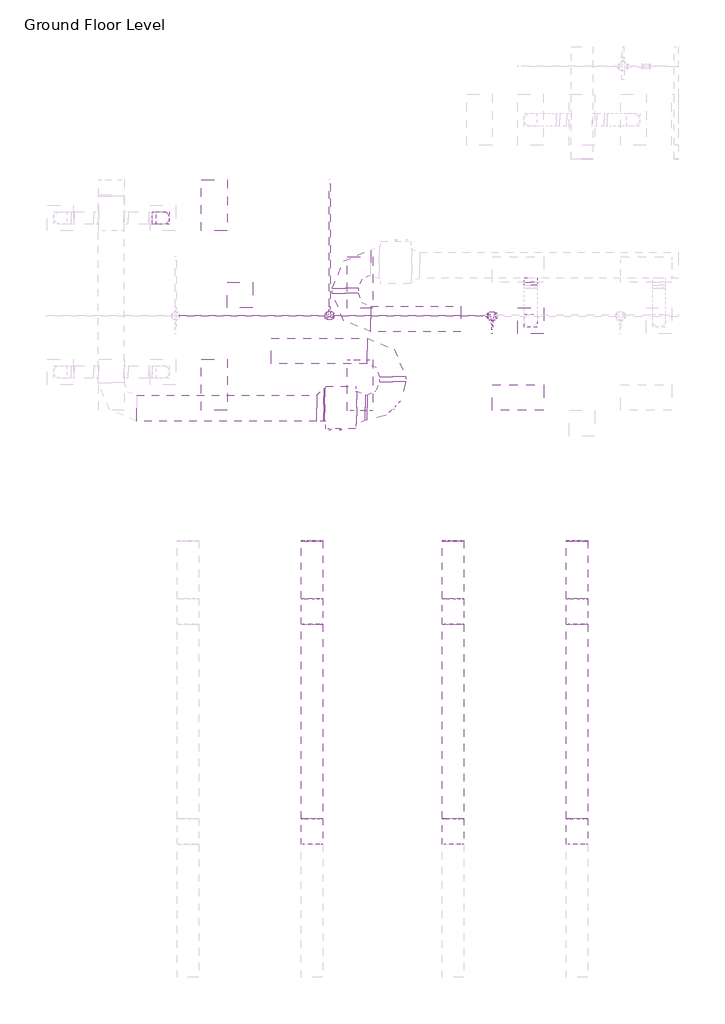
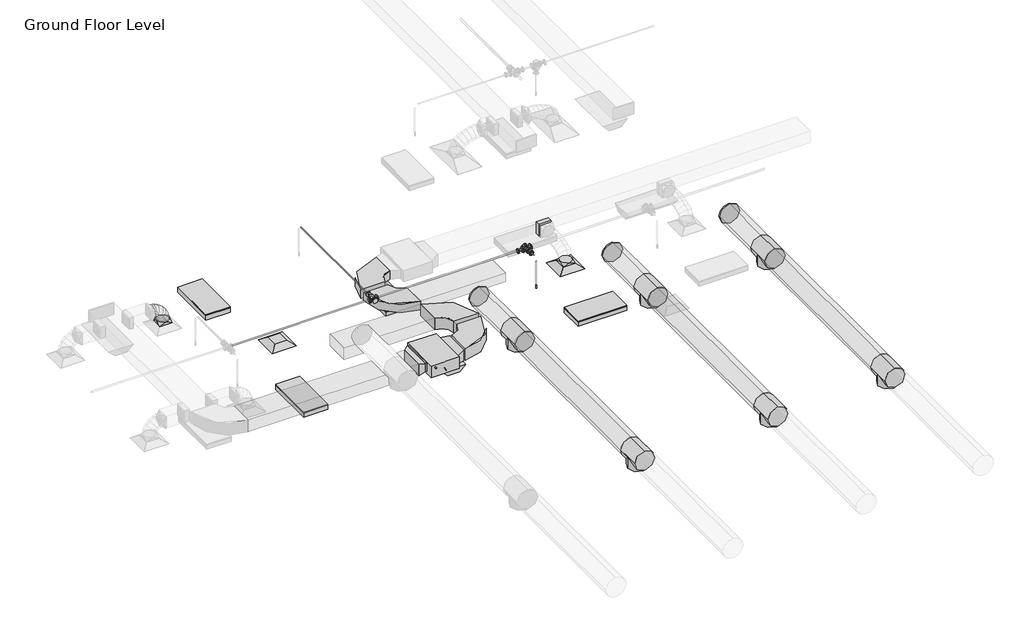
# One storey, part 11 of 68: 18 duct fittings, 15 duct segments, 5 light fixtures, 5 pipe fittings, 5 pipe segments, 2 air terminals, 1 fire suppression terminal, 1 proxy.
"""IFC4 building model written with IfcOpenShell, lengths in millimetres."""

from ifc_helpers import new_model, si_unit, point, frame, frame_2d, origin, place, context, project, spatial, polyline, circle_curve, ellipse_curve, trimmed, segment, composite_curve, outline, extrude, transform, mapped, element, save
from ifc_brep_helpers import plane_surface, cylinder_surface, advanced_brep
from components import m_return_diffuser_600_x_600_face_300_x_300_connection_ff221211, fcu_daikin_iu_7e1df382, m_rectangular_elbow_radius_1_w_907e8aaa, m_rectangular_elbow_radius_1_w_c6ed0251, m_rectangular_takeoff_standard_2be5eba1, m_rectangular_transition_angle_45_degree_cf32fe34, m_rectangular_transition_angle_45_degree_023bf680, m_rectangular_to_round_transition_angle_45_degree_641efff0, m_round_endcap_standard_1c45c55c, m_round_tee_standard_ed589d36, m_sprinkler_dry_pendent_hosted_15_mm_dry_pendent_9bda8e11, m_emergency_recessed_lighting_fixture_600x1200_277_5b10b25d, m_troffer_light_parabolic_rectangular1_0600x1200mm_4_lamp_86473d4a, m_reducer_flanged_cs_class_150_standard_b6b67c23, m_reducer_flanged_cs_class_150_standard_ccf252ad, m_reducer_flanged_cs_class_150_standard_678fb8eb, m_tee_round_base_flanged_cs_class_150_standard_7e5987a1, m_tee_round_base_flanged_cs_class_150_standard_9c9133d0

model = new_model("IFC4")

# Units and contexts
model_context = context("Model", 3, world=origin())
ifc_project = project(units=[si_unit("LENGTHUNIT", "METRE", prefix="MILLI")], contexts=[model_context])

# Site, building, storey
site = spatial("IfcSite", under=ifc_project)
building = spatial("IfcBuilding", under=site)
storey = spatial("IfcBuildingStorey", under=building, Name="Ground Floor Level", Elevation=900.0)

# Air terminals
placement = place(None, origin())
m_return_diffuser_600_x_600_face_300_x_300_connection_shape = m_return_diffuser_600_x_600_face_300_x_300_connection_ff221211(model_context)
element("IfcAirTerminal", 1, ObjectType="M_Return Diffuser : 600 x 600 Face 300 x 300 Connection", at=placement, inside=storey, context=model_context, shape_type="MappedRepresentation", body=[
    mapped(m_return_diffuser_600_x_600_face_300_x_300_connection_shape, transform((-14937.2327605, -2464.7846466, 3650.0), x_axis=(1.0, 0.0, 0.0), y_axis=(0.0, 1.0, 0.0), z_axis=(0.0, 0.0, 1.0))),
])
element("IfcAirTerminal", 2, ObjectType="M_Supply Diffuser : 600 x 600 Face 300 x 300 Connection", at=placement, inside=storey, context=model_context, shape_type="MappedRepresentation", body=[
    mapped(m_return_diffuser_600_x_600_face_300_x_300_connection_shape, transform((-8137.2327605, -3064.7846466, 3650.0), x_axis=(1.0, 0.0, 0.0), y_axis=(0.0, 1.0, 0.0), z_axis=(0.0, 0.0, 1.0))),
])

# Proxy
fcu_daikin_iu_shape = fcu_daikin_iu_7e1df382(model_context)
element("IfcBuildingElementProxy", 3, Name="FCU-DAIKIN IU : 5.7kW, 230V/50Hz/1Ph", ObjectType="FCU-DAIKIN IU : 5.7kW, 230V/50Hz/1Ph", at=placement, inside=storey, context=model_context, shape_type="MappedRepresentation", body=[
    mapped(fcu_daikin_iu_shape, transform((-12577.2327605, -5093.8471466, 3934.0895647), x_axis=(0.0, -1.0, 0.0), y_axis=(1.0, 0.0, 0.0), z_axis=(0.0, 0.0, 1.0))),
])

# Duct fittings
m_rectangular_elbow_radius_1_w_shape = m_rectangular_elbow_radius_1_w_907e8aaa(model_context)
element("IfcDuctFitting", 4, ObjectType="M_Rectangular Elbow - Radius : 1 W", at=placement, inside=storey, context=model_context, shape_type="MappedRepresentation", body=[
    mapped(m_rectangular_elbow_radius_1_w_shape, transform((-12472.6327605, -1704.7846466, 4075.2873731), x_axis=(-1.0, 0.0, 0.0), y_axis=(0.0, -1.0, 0.0), z_axis=(0.0, 0.0, 1.0))),
])
element("IfcDuctFitting", 5, ObjectType="M_Rectangular Elbow - Radius : 1 W", at=placement, inside=storey, context=model_context, shape_type="MappedRepresentation", body=[
    mapped(m_rectangular_elbow_radius_1_w_shape, transform((-12472.6327605, -3024.7846466, 4075.2873731), x_axis=(0.0, -1.0, 0.0), y_axis=(1.0, 0.0, 0.0), z_axis=(0.0, 0.0, 1.0))),
])
m_rectangular_elbow_radius_1_w_2_shape = m_rectangular_elbow_radius_1_w_c6ed0251(model_context)
element("IfcDuctFitting", 6, ObjectType="M_Rectangular Elbow - Radius : 1 W", at=placement, inside=storey, context=model_context, shape_type="MappedRepresentation", body=[
    mapped(m_rectangular_elbow_radius_1_w_2_shape, transform((-11361.8327606, -5093.8471466, 4075.3020647), x_axis=(0.9999999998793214, 0.0, 1.5535678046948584e-05), y_axis=(0.0, 1.0000000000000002, 0.0), z_axis=(-1.5535678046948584e-05, 0.0, 0.9999999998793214))),
])
element("IfcDuctFitting", 7, ObjectType="M_Rectangular Elbow - Radius : 1 W", at=placement, inside=storey, context=model_context, shape_type="MappedRepresentation", body=[
    mapped(m_rectangular_elbow_radius_1_w_2_shape, transform((-11361.8327606, -3773.8471466, 4075.3020647), x_axis=(0.0, 1.0, 0.0), y_axis=(-1.0, 0.0, 0.0), z_axis=(0.0, 0.0, 1.0))),
])
m_rectangular_takeoff_standard_shape = m_rectangular_takeoff_standard_2be5eba1(model_context)
element("IfcDuctFitting", 8, ObjectType="M_Rectangular Takeoff : Standard", at=placement, inside=storey, context=model_context, shape_type="MappedRepresentation", body=[
    mapped(m_rectangular_takeoff_standard_shape, transform((-8137.2327605, -2068.2846466, 4099.9964558), x_axis=(0.0, -1.0, 0.0), y_axis=(-1.0, 0.0, 0.0), z_axis=(0.0, 0.0, -1.0))),
])
m_rectangular_transition_angle_45_degree_shape = m_rectangular_transition_angle_45_degree_cf32fe34(model_context)
element("IfcDuctFitting", 9, ObjectType="M_Rectangular Transition - Angle : 45 Degree", at=placement, inside=storey, context=model_context, shape_type="MappedRepresentation", body=[
    mapped(m_rectangular_transition_angle_45_degree_shape, transform((-12972.63276, -5030.3471466, 4100.0020647), x_axis=(-0.9999999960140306, 0.0, -8.928571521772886e-05), y_axis=(0.0, -1.0, 0.0), z_axis=(-8.928571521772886e-05, 0.0, 0.9999999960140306))),
])
m_rectangular_transition_angle_45_degree_2_shape = m_rectangular_transition_angle_45_degree_023bf680(model_context)
element("IfcDuctFitting", 10, ObjectType="M_Rectangular Transition - Angle : 45 Degree", at=placement, inside=storey, context=model_context, shape_type="MappedRepresentation", body=[
    mapped(m_rectangular_transition_angle_45_degree_2_shape, transform((-12201.8327605, -5093.8471466, 4075.2895647), x_axis=(1.0, 0.0, 0.0), y_axis=(0.0, 1.0, 0.0), z_axis=(0.0, 0.0, 1.0))),
])
m_rectangular_to_round_transition_angle_45_degree_shape = m_rectangular_to_round_transition_angle_45_degree_641efff0(model_context)
element("IfcDuctFitting", 11, ObjectType="M_Rectangular to Round Transition - Angle : 45 Degree", at=placement, inside=storey, context=model_context, shape_type="MappedRepresentation", body=[
    mapped(m_rectangular_to_round_transition_angle_45_degree_shape, transform((-8137.2327605, -3064.7846466, 3751.6), x_axis=(0.0, 0.0, 1.0), y_axis=(-1.0, 0.0, 0.0), z_axis=(0.0, -1.0, 0.0))),
])
element("IfcDuctFitting", 12, ObjectType="M_Rectangular to Round Transition - Angle : 45 Degree", at=placement, inside=storey, context=model_context, shape_type="MappedRepresentation", body=[
    mapped(m_rectangular_to_round_transition_angle_45_degree_shape, transform((-16737.2327605, -664.7846466, 3751.6), x_axis=(0.0, 0.0, 1.0), y_axis=(-1.0, 0.0, 0.0), z_axis=(0.0, -1.0, 0.0))),
])
m_round_endcap_standard_shape = m_round_endcap_standard_1c45c55c(model_context)
element("IfcDuctFitting", 13, ObjectType="M_Round Endcap : Standard", at=placement, inside=storey, context=model_context, shape_type="MappedRepresentation", body=[
    mapped(m_round_endcap_standard_shape, transform((-13250.3527512, -8221.0125677, 7765.9), x_axis=(0.0, 0.9999999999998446, -5.576948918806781e-07), y_axis=(-1.0000000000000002, 0.0, 0.0), z_axis=(0.0, 5.576948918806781e-07, 0.9999999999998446))),
])
element("IfcDuctFitting", 14, ObjectType="M_Round Endcap : Standard", at=placement, inside=storey, context=model_context, shape_type="MappedRepresentation", body=[
    mapped(m_round_endcap_standard_shape, transform((-9950.3527512, -8221.0125677, 7765.9), x_axis=(0.0, 0.9999999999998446, -5.576948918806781e-07), y_axis=(-1.0000000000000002, 0.0, 0.0), z_axis=(0.0, 5.576948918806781e-07, 0.9999999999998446))),
])
element("IfcDuctFitting", 15, ObjectType="M_Round Endcap : Standard", at=placement, inside=storey, context=model_context, shape_type="MappedRepresentation", body=[
    mapped(m_round_endcap_standard_shape, transform((-7050.3527512, -8221.0125677, 7765.9), x_axis=(0.0, 0.9999999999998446, -5.576948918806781e-07), y_axis=(-1.0000000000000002, 0.0, 0.0), z_axis=(0.0, 5.576948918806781e-07, 0.9999999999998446))),
])
m_round_tee_standard_shape = m_round_tee_standard_ed589d36(model_context)
element("IfcDuctFitting", 16, ObjectType="M_Round Tee : Standard", at=placement, inside=storey, context=model_context, shape_type="MappedRepresentation", body=[
    mapped(m_round_tee_standard_shape, transform((-13250.3527512, -9864.7844235, 7765.9009947), x_axis=(0.0, 0.9999999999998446, -5.576948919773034e-07), y_axis=(0.0, 5.576948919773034e-07, 0.9999999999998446), z_axis=(1.0, 0.0, 0.0))),
])
element("IfcDuctFitting", 17, ObjectType="M_Round Tee : Standard", at=placement, inside=storey, context=model_context, shape_type="MappedRepresentation", body=[
    mapped(m_round_tee_standard_shape, transform((-13250.3527512, -15012.784348, 7765.9038657), x_axis=(0.0, 0.9999999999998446, -5.576948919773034e-07), y_axis=(0.0, 5.576948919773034e-07, 0.9999999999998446), z_axis=(1.0, 0.0, 0.0))),
])
element("IfcDuctFitting", 18, ObjectType="M_Round Tee : Standard", at=placement, inside=storey, context=model_context, shape_type="MappedRepresentation", body=[
    mapped(m_round_tee_standard_shape, transform((-9950.3527512, -9864.7844235, 7765.9009947), x_axis=(0.0, 0.9999999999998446, -5.576948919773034e-07), y_axis=(0.0, 5.576948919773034e-07, 0.9999999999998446), z_axis=(1.0, 0.0, 0.0))),
])
element("IfcDuctFitting", 19, ObjectType="M_Round Tee : Standard", at=placement, inside=storey, context=model_context, shape_type="MappedRepresentation", body=[
    mapped(m_round_tee_standard_shape, transform((-9950.3527512, -15012.784348, 7765.9038657), x_axis=(0.0, 0.9999999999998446, -5.576948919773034e-07), y_axis=(0.0, 5.576948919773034e-07, 0.9999999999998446), z_axis=(1.0, 0.0, 0.0))),
])
element("IfcDuctFitting", 20, ObjectType="M_Round Tee : Standard", at=placement, inside=storey, context=model_context, shape_type="MappedRepresentation", body=[
    mapped(m_round_tee_standard_shape, transform((-7050.3527512, -9864.7844235, 7765.9009947), x_axis=(0.0, 0.9999999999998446, -5.576948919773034e-07), y_axis=(0.0, 5.576948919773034e-07, 0.9999999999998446), z_axis=(1.0, 0.0, 0.0))),
])
element("IfcDuctFitting", 21, ObjectType="M_Round Tee : Standard", at=placement, inside=storey, context=model_context, shape_type="MappedRepresentation", body=[
    mapped(m_round_tee_standard_shape, transform((-7050.3527512, -15012.784348, 7765.9038657), x_axis=(0.0, 0.9999999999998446, -5.576948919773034e-07), y_axis=(0.0, 5.576948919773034e-07, 0.9999999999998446), z_axis=(1.0, 0.0, 0.0))),
])

# Duct segments
element("IfcDuctSegment", 22, ObjectType="Flex - Round", at=placement, inside=storey, context=model_context, shape_type="AdvancedBrep", body=[
    advanced_brep(
    [(-16587.2327605, -664.7846466, 3826.6), (-16737.2327605, -814.7846466, 3826.6), (-16887.2327605, -664.7846466, 3826.6), (-16737.2327605, -514.7846466, 3826.6), (-16587.2327605, -664.7846466, 3876.1927096), (-16737.2327605, -814.7846466, 3854.3867302), (-16887.2327605, -664.7846466, 3832.5807508), (-16737.2327605, -514.7846466, 3854.3867302), (-16611.9605873, -664.7846466, 3959.4447987), (-16751.5699162, -814.7846466, 3902.6561626), (-16891.1792451, -664.7846466, 3845.8675264), (-16751.5699162, -514.7846466, 3902.6561626), (-16666.3134835, -664.7846466, 4062.8525006), (-16790.3375927, -814.7846466, 3976.4126063), (-16914.3617019, -664.7846466, 3889.9727121), (-16790.3375927, -514.7846466, 3976.4126063), (-16749.2073595, -664.7846466, 4154.8420293), (-16847.1701043, -814.7846466, 4039.481149), (-16945.132849, -664.7846466, 3924.1202687), (-16847.1701043, -514.7846466, 4039.481149), (-16846.5982823, -664.7846466, 4217.3600851), (-16915.7017653, -814.7846466, 4083.4736083), (-16984.8052483, -664.7846466, 3949.5871315), (-16915.7017653, -514.7846466, 4083.4736083), (-16927.78853, -664.7846466, 4250.0018019), (-16956.8125972, -814.7846466, 4100.0018019), (-16985.8366644, -664.7846466, 3950.0018019), (-16956.8125972, -514.7846466, 4100.0018019), (-16989.5668899, -664.7846466, 4250.0018019), (-16989.5668899, -514.7846466, 4100.0018019), (-16989.5668899, -664.7846466, 3950.0018019), (-16989.5668899, -814.7846466, 4100.0018019)],
    [
        (0, 1, circle_curve(frame((-16737.2327605, -664.7846466, 3826.6), z_axis=(0.0, 0.0, -1.0), x_axis=(1.0, 0.0, 0.0)), 150.0)),
        (1, 2, circle_curve(frame((-16737.2327605, -664.7846466, 3826.6), z_axis=(0.0, 0.0, -1.0), x_axis=(1.0, 0.0, 0.0)), 150.0)),
        (2, 3, circle_curve(frame((-16737.2327605, -664.7846466, 3826.6), z_axis=(0.0, 0.0, -1.0), x_axis=(1.0, 0.0, 0.0)), 150.0)),
        (3, 0, circle_curve(frame((-16737.2327605, -664.7846466, 3826.6), z_axis=(0.0, 0.0, -1.0), x_axis=(1.0, 0.0, 0.0)), 150.0)),
        (0, 4),
        (4, 5, ellipse_curve(frame((-16737.2327605, -664.7846466, 3854.3867302), z_axis=(0.1438610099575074, 0.0, -0.9895979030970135), x_axis=(-0.9895979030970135, 0.0, -0.14386100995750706)), 151.5767157, 150.0)),
        (5, 1),
        (5, 6, ellipse_curve(frame((-16737.2327605, -664.7846466, 3854.3867302), z_axis=(0.1438610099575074, 0.0, -0.9895979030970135), x_axis=(-0.9895979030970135, 0.0, -0.14386100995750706)), 151.5767157, 150.0)),
        (6, 2),
        (6, 7, ellipse_curve(frame((-16737.2327605, -664.7846466, 3854.3867302), z_axis=(0.1438610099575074, 0.0, -0.9895979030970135), x_axis=(-0.9895979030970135, 0.0, -0.14386100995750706)), 151.5767157, 150.0)),
        (7, 3),
        (7, 4, ellipse_curve(frame((-16737.2327605, -664.7846466, 3854.3867302), z_axis=(0.1438610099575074, 0.0, -0.9895979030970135), x_axis=(-0.9895979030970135, 0.0, -0.14386100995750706)), 151.5767157, 150.0)),
        (4, 8),
        (8, 9, ellipse_curve(frame((-16751.5699162, -664.7846466, 3902.6561626), z_axis=(0.37678902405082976, 0.0, -0.9262991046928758), x_axis=(-0.9262991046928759, 0.0, -0.37678902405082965)), 150.7173312, 150.0)),
        (9, 5),
        (9, 10, ellipse_curve(frame((-16751.5699162, -664.7846466, 3902.6561626), z_axis=(0.37678902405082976, 0.0, -0.9262991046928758), x_axis=(-0.9262991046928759, 0.0, -0.37678902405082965)), 150.7173312, 150.0)),
        (10, 6),
        (10, 11, ellipse_curve(frame((-16751.5699162, -664.7846466, 3902.6561626), z_axis=(0.37678902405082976, 0.0, -0.9262991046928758), x_axis=(-0.9262991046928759, 0.0, -0.37678902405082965)), 150.7173312, 150.0)),
        (11, 7),
        (11, 8, ellipse_curve(frame((-16751.5699162, -664.7846466, 3902.6561626), z_axis=(0.37678902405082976, 0.0, -0.9262991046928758), x_axis=(-0.9262991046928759, 0.0, -0.37678902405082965)), 150.7173312, 150.0)),
        (8, 12),
        (12, 13, ellipse_curve(frame((-16790.3375927, -664.7846466, 3976.4126063), z_axis=(0.5717875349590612, 0.0, -0.8204017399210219), x_axis=(-0.8204017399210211, 0.0, -0.5717875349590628)), 151.174849, 150.0)),
        (13, 9),
        (13, 14, ellipse_curve(frame((-16790.3375927, -664.7846466, 3976.4126063), z_axis=(0.5717875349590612, 0.0, -0.8204017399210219), x_axis=(-0.8204017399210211, 0.0, -0.5717875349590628)), 151.174849, 150.0)),
        (14, 10),
        (14, 15, ellipse_curve(frame((-16790.3375927, -664.7846466, 3976.4126063), z_axis=(0.5717875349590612, 0.0, -0.8204017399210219), x_axis=(-0.8204017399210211, 0.0, -0.5717875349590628)), 151.174849, 150.0)),
        (15, 11),
        (15, 12, ellipse_curve(frame((-16790.3375927, -664.7846466, 3976.4126063), z_axis=(0.5717875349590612, 0.0, -0.8204017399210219), x_axis=(-0.8204017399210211, 0.0, -0.5717875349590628)), 151.174849, 150.0)),
        (12, 16),
        (16, 17, ellipse_curve(frame((-16847.1701043, -664.7846466, 4039.481149), z_axis=(0.7622457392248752, 0.0, -0.6472877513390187), x_axis=(-0.6472877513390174, 0.0, -0.7622457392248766)), 151.3434242, 150.0)),
        (17, 13),
        (17, 18, ellipse_curve(frame((-16847.1701043, -664.7846466, 4039.481149), z_axis=(0.7622457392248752, 0.0, -0.6472877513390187), x_axis=(-0.6472877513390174, 0.0, -0.7622457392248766)), 151.3434242, 150.0)),
        (18, 14),
        (18, 19, ellipse_curve(frame((-16847.1701043, -664.7846466, 4039.481149), z_axis=(0.7622457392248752, 0.0, -0.6472877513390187), x_axis=(-0.6472877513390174, 0.0, -0.7622457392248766)), 151.3434242, 150.0)),
        (19, 15),
        (19, 16, ellipse_curve(frame((-16847.1701043, -664.7846466, 4039.481149), z_axis=(0.7622457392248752, 0.0, -0.6472877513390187), x_axis=(-0.6472877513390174, 0.0, -0.7622457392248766)), 151.3434242, 150.0)),
        (16, 20),
        (20, 21, ellipse_curve(frame((-16915.7017653, -664.7846466, 4083.4736083), z_axis=(0.8886185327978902, 0.0, -0.45864703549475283), x_axis=(-0.4586470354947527, 0.0, -0.8886185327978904)), 150.6681122, 150.0)),
        (21, 17),
        (21, 22, ellipse_curve(frame((-16915.7017653, -664.7846466, 4083.4736083), z_axis=(0.8886185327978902, 0.0, -0.45864703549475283), x_axis=(-0.4586470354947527, 0.0, -0.8886185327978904)), 150.6681122, 150.0)),
        (22, 18),
        (22, 23, ellipse_curve(frame((-16915.7017653, -664.7846466, 4083.4736083), z_axis=(0.8886185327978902, 0.0, -0.45864703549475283), x_axis=(-0.4586470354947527, 0.0, -0.8886185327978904)), 150.6681122, 150.0)),
        (23, 19),
        (23, 20, ellipse_curve(frame((-16915.7017653, -664.7846466, 4083.4736083), z_axis=(0.8886185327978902, 0.0, -0.45864703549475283), x_axis=(-0.4586470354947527, 0.0, -0.8886185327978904)), 150.6681122, 150.0)),
        (20, 24),
        (24, 25, ellipse_curve(frame((-16956.8125972, -664.7846466, 4100.0018019), z_axis=(0.9817898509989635, 0.0, -0.18997023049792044), x_axis=(-0.18997023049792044, 0.0, -0.9817898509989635)), 152.7821864, 150.0)),
        (25, 21),
        (25, 26, ellipse_curve(frame((-16956.8125972, -664.7846466, 4100.0018019), z_axis=(0.9817898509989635, 0.0, -0.18997023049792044), x_axis=(-0.18997023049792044, 0.0, -0.9817898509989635)), 152.7821864, 150.0)),
        (26, 22),
        (26, 27, ellipse_curve(frame((-16956.8125972, -664.7846466, 4100.0018019), z_axis=(0.9817898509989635, 0.0, -0.18997023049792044), x_axis=(-0.18997023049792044, 0.0, -0.9817898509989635)), 152.7821864, 150.0)),
        (27, 23),
        (27, 24, ellipse_curve(frame((-16956.8125972, -664.7846466, 4100.0018019), z_axis=(0.9817898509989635, 0.0, -0.18997023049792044), x_axis=(-0.18997023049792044, 0.0, -0.9817898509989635)), 152.7821864, 150.0)),
        (28, 29, circle_curve(frame((-16989.5668899, -664.7846466, 4100.0018019), z_axis=(-1.0, 0.0, 0.0), x_axis=(0.0, 0.0, 1.0)), 150.0)),
        (29, 30, circle_curve(frame((-16989.5668899, -664.7846466, 4100.0018019), z_axis=(-1.0, 0.0, 0.0), x_axis=(0.0, 0.0, 1.0)), 150.0)),
        (30, 31, circle_curve(frame((-16989.5668899, -664.7846466, 4100.0018019), z_axis=(-1.0, 0.0, 0.0), x_axis=(0.0, 0.0, 1.0)), 150.0)),
        (31, 28, circle_curve(frame((-16989.5668899, -664.7846466, 4100.0018019), z_axis=(-1.0, 0.0, 0.0), x_axis=(0.0, 0.0, 1.0)), 150.0)),
        (24, 28),
        (31, 25),
        (30, 26),
        (29, 27),
    ],
    [
        plane_surface(frame((-16737.2327605, -814.7846466, 3826.6), z_axis=(0.0, 0.0, -1.0), x_axis=(1.0, 0.0, 0.0))),
        cylinder_surface(frame((-16737.2327605, -664.7846466, 3826.6), z_axis=(0.0, 0.0, -1.0), x_axis=(1.0, 0.0, 0.0)), 150.0),
        cylinder_surface(frame((-16737.2327605, -664.7846466, 3854.3867302), z_axis=(0.28472910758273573, 0.0, -0.958608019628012), x_axis=(0.958608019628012, 0.0, 0.28472910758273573)), 150.0),
        cylinder_surface(frame((-16751.5699162, -664.7846466, 3902.6561626), z_axis=(0.46526232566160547, 0.0, -0.8851728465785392), x_axis=(0.8851728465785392, 0.0, 0.46526232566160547)), 150.0),
        cylinder_surface(frame((-16790.3375927, -664.7846466, 3976.4126063), z_axis=(0.6694254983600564, 0.0, -0.7428791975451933), x_axis=(0.7428791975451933, 0.0, 0.6694254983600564)), 150.0),
        cylinder_surface(frame((-16847.1701043, -664.7846466, 4039.481149), z_axis=(0.8415335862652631, 0.0, -0.5402047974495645), x_axis=(0.5402047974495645, 0.0, 0.8415335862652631)), 150.0),
        cylinder_surface(frame((-16915.7017653, -664.7846466, 4083.4736083), z_axis=(0.9278226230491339, 0.0, -0.3730216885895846), x_axis=(0.3730216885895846, 0.0, 0.9278226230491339)), 150.0),
        plane_surface(frame((-16989.5668899, -664.7846466, 3950.0018019), z_axis=(-1.0, 0.0, 0.0), x_axis=(0.0, -1.0, 0.0))),
        cylinder_surface(frame((-16956.8125972, -664.7846466, 4100.0018019), z_axis=(1.0, 0.0, 0.0), x_axis=(0.0, 0.0, 1.0)), 150.0),
    ],
    [
        (0, [[1, 2, 3, 4]]),
        (1, [[-1, 5, 6, 7]]),
        (1, [[-2, -7, 8, 9]]),
        (1, [[-3, -9, 10, 11]]),
        (1, [[-4, -11, 12, -5]]),
        (2, [[-6, 13, 14, 15]]),
        (2, [[-8, -15, 16, 17]]),
        (2, [[-10, -17, 18, 19]]),
        (2, [[-12, -19, 20, -13]]),
        (3, [[-14, 21, 22, 23]]),
        (3, [[-16, -23, 24, 25]]),
        (3, [[-18, -25, 26, 27]]),
        (3, [[-20, -27, 28, -21]]),
        (4, [[-22, 29, 30, 31]]),
        (4, [[-24, -31, 32, 33]]),
        (4, [[-26, -33, 34, 35]]),
        (4, [[-28, -35, 36, -29]]),
        (5, [[-30, 37, 38, 39]]),
        (5, [[-32, -39, 40, 41]]),
        (5, [[-34, -41, 42, 43]]),
        (5, [[-36, -43, 44, -37]]),
        (6, [[-38, 45, 46, 47]]),
        (6, [[-40, -47, 48, 49]]),
        (6, [[-42, -49, 50, 51]]),
        (6, [[-44, -51, 52, -45]]),
        (7, [[53, 54, 55, 56]]),
        (8, [[-46, 57, -56, 58]]),
        (8, [[-48, -58, -55, 59]]),
        (8, [[-50, -59, -54, 60]]),
        (8, [[-52, -60, -53, -57]]),
    ],
),
])
element("IfcDuctSegment", 23, ObjectType="Radius Elbows / Taps", at=placement, inside=storey, context=model_context, shape_type="SweptSolid", body=[
    extrude(outline(polyline([(-12772.6327605, -2304.7846466), (-12172.6327605, -2304.7846466), (-12172.6327605, -2424.7846466), (-12772.6327605, -2424.7846466), (-12772.6327605, -2304.7846466)])), frame((0.0, 0.0, 3968.2873731), z_axis=(0.0, 0.0, 1.0), x_axis=(1.0, 0.0, 0.0)), (0.0, 0.0, 1.0), 214.0),
])
element("IfcDuctSegment", 24, ObjectType="Radius Elbows / Taps", at=placement, inside=storey, context=model_context, shape_type="SweptSolid", body=[
    extrude(outline(polyline([(-11872.6327605, -3324.7846466), (-11872.6327605, -2724.7846466), (-9772.6327605, -2724.7846466), (-9772.6327605, -3324.7846466), (-11872.6327605, -3324.7846466)])), frame((0.0, 0.0, 3968.2873731), z_axis=(0.0, 0.0, 1.0), x_axis=(1.0, 0.0, 0.0)), (0.0, 0.0, 1.0), 214.0),
])
element("IfcDuctSegment", 25, ObjectType="Radius Elbows / Taps", at=placement, inside=storey, context=model_context, shape_type="SweptSolid", body=[
    extrude(outline(polyline([(0.0, -600.0), (0.0, 0.0), (4213.5254116, 0.0), (4213.5254116, -600.0), (0.0, -600.0)])), frame((-17348.0336749, -4811.2846466, 3950.0), z_axis=(3.3610180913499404e-06, 0.0, 0.9999999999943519), x_axis=(0.9999999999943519, 0.0, -3.3610180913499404e-06)), (0.0, 0.0, 1.0), 300.0),
])
element("IfcDuctSegment", 26, ObjectType="Radius Elbows / Taps", at=placement, inside=storey, context=model_context, shape_type="SweptSolid", body=[
    extrude(outline(polyline([(-12952.6327605, -4649.4096466), (-12952.6327605, -5411.2846466), (-12972.63276, -5411.2846466), (-12972.63276, -4649.4096466), (-12952.6327605, -4649.4096466)])), frame((0.0, 0.0, 3992.8645647), z_axis=(0.0, 0.0, 1.0), x_axis=(1.0, 0.0, 0.0)), (0.0, 0.0, 1.0), 214.275),
])
element("IfcDuctSegment", 27, ObjectType="Radius Elbows / Taps", at=placement, inside=storey, context=model_context, shape_type="SweptSolid", body=[
    extrude(outline(polyline([(0.0, -600.0), (0.0, 0.0), (44.5995899, 0.0), (44.5995899, -600.0), (0.0, -600.0)])), frame((-12006.4216599, -4793.8471466, 3925.2895651), z_axis=(-7.126956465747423e-05, 0.0, 0.9999999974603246), x_axis=(0.9999999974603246, 0.0, 7.126956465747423e-05)), (0.0, 0.0, 1.0), 300.0),
])
element("IfcDuctSegment", 28, ObjectType="Radius Elbows / Taps", at=placement, inside=storey, context=model_context, shape_type="SweptSolid", body=[
    extrude(outline(polyline([(-11061.8327606, -4493.8471466), (-11661.8327606, -4493.8471466), (-11661.8327606, -4373.8471466), (-11061.8327606, -4373.8471466), (-11061.8327606, -4493.8471466)])), frame((0.0, 0.0, 3925.3020647), z_axis=(0.0, 0.0, 1.0), x_axis=(1.0, 0.0, 0.0)), (0.0, 0.0, 1.0), 300.0),
])
element("IfcDuctSegment", 29, ObjectType="Radius Elbows / Taps", at=placement, inside=storey, context=model_context, shape_type="SweptSolid", body=[
    extrude(outline(polyline([(-11961.8327606, -3473.8471466), (-11961.8327606, -4073.8471466), (-14201.8327606, -4073.8471466), (-14201.8327606, -3473.8471466), (-11961.8327606, -3473.8471466)])), frame((0.0, 0.0, 3925.3020647), z_axis=(0.0, 0.0, 1.0), x_axis=(1.0, 0.0, 0.0)), (0.0, 0.0, 1.0), 300.0),
])
element("IfcDuctSegment", 30, ObjectType="Radius Elbows / Taps", at=placement, inside=storey, context=model_context, shape_type="SweptSolid", body=[
    extrude(outline(polyline([(-8287.2327605, -2169.8846466), (-7987.2327605, -2169.8846466), (-7987.2327605, -2237.4451712), (-8287.2327605, -2237.4451712), (-8287.2327605, -2169.8846466)])), frame((0.0, 0.0, 3949.9964558), z_axis=(0.0, 0.0, 1.0), x_axis=(1.0, 0.0, 0.0)), (0.0, 0.0, 1.0), 300.0),
])
element("IfcDuctSegment", 31, ObjectType="Tees", at=placement, inside=storey, context=model_context, shape_type="SweptSolid", body=[
    extrude(outline(composite_curve([segment(trimmed(circle_curve(frame_2d((7765.9008274, -13250.3527512)), 250.0), [point((7765.9008274, -13500.3527512))], [point((7515.9008274, -13250.3527512))], False, "CARTESIAN"), True, "CONTINUOUS"), segment(trimmed(circle_curve(frame_2d((7765.9008274, -13250.3527512)), 250.0), [point((7515.9008274, -13250.3527512))], [point((7765.9008274, -13000.3527512))], False, "CARTESIAN"), True, "CONTINUOUS"), segment(trimmed(circle_curve(frame_2d((7765.9008274, -13250.3527512)), 250.0), [point((7765.9008274, -13000.3527512))], [point((8015.9008274, -13250.3527512))], False, "CARTESIAN"), True, "CONTINUOUS"), segment(trimmed(circle_curve(frame_2d((7765.9008274, -13250.3527512)), 250.0), [point((8015.9008274, -13250.3527512))], [point((7765.9008274, -13500.3527512))], False, "CARTESIAN"), True, "CONTINUOUS")], self_intersect=False)), frame((0.0, -9564.7844235, 0.0), z_axis=(0.0, 1.0, 0.0), x_axis=(0.0, 0.0, 1.0)), (0.0, 0.0, 1.0), 1343.7718558),
])
element("IfcDuctSegment", 32, ObjectType="Tees", at=placement, inside=storey, context=model_context, shape_type="SweptSolid", body=[
    extrude(outline(composite_curve([segment(trimmed(circle_curve(frame_2d((7765.901162, -13250.3527512)), 250.0), [point((7765.901162, -13500.3527512))], [point((7515.901162, -13250.3527512))], False, "CARTESIAN"), True, "CONTINUOUS"), segment(trimmed(circle_curve(frame_2d((7765.901162, -13250.3527512)), 250.0), [point((7515.901162, -13250.3527512))], [point((7765.901162, -13000.3527512))], False, "CARTESIAN"), True, "CONTINUOUS"), segment(trimmed(circle_curve(frame_2d((7765.901162, -13250.3527512)), 250.0), [point((7765.901162, -13000.3527512))], [point((8015.901162, -13250.3527512))], False, "CARTESIAN"), True, "CONTINUOUS"), segment(trimmed(circle_curve(frame_2d((7765.901162, -13250.3527512)), 250.0), [point((8015.901162, -13250.3527512))], [point((7765.901162, -13500.3527512))], False, "CARTESIAN"), True, "CONTINUOUS")], self_intersect=False)), frame((0.0, -14712.784348, 0.0), z_axis=(0.0, 1.0, 0.0), x_axis=(0.0, 0.0, 1.0)), (0.0, 0.0, 1.0), 4547.9999245),
])
element("IfcDuctSegment", 33, ObjectType="Tees", at=placement, inside=storey, context=model_context, shape_type="SweptSolid", body=[
    extrude(outline(composite_curve([segment(trimmed(circle_curve(frame_2d((7765.9008274, -9950.3527512)), 250.0), [point((7765.9008274, -10200.3527512))], [point((7515.9008274, -9950.3527512))], False, "CARTESIAN"), True, "CONTINUOUS"), segment(trimmed(circle_curve(frame_2d((7765.9008274, -9950.3527512)), 250.0), [point((7515.9008274, -9950.3527512))], [point((7765.9008274, -9700.3527512))], False, "CARTESIAN"), True, "CONTINUOUS"), segment(trimmed(circle_curve(frame_2d((7765.9008274, -9950.3527512)), 250.0), [point((7765.9008274, -9700.3527512))], [point((8015.9008274, -9950.3527512))], False, "CARTESIAN"), True, "CONTINUOUS"), segment(trimmed(circle_curve(frame_2d((7765.9008274, -9950.3527512)), 250.0), [point((8015.9008274, -9950.3527512))], [point((7765.9008274, -10200.3527512))], False, "CARTESIAN"), True, "CONTINUOUS")], self_intersect=False)), frame((0.0, -9564.7844235, 0.0), z_axis=(0.0, 1.0, 0.0), x_axis=(0.0, 0.0, 1.0)), (0.0, 0.0, 1.0), 1343.7718558),
])
element("IfcDuctSegment", 34, ObjectType="Tees", at=placement, inside=storey, context=model_context, shape_type="SweptSolid", body=[
    extrude(outline(composite_curve([segment(trimmed(circle_curve(frame_2d((7765.901162, -9950.3527512)), 250.0), [point((7765.901162, -10200.3527512))], [point((7515.901162, -9950.3527512))], False, "CARTESIAN"), True, "CONTINUOUS"), segment(trimmed(circle_curve(frame_2d((7765.901162, -9950.3527512)), 250.0), [point((7515.901162, -9950.3527512))], [point((7765.901162, -9700.3527512))], False, "CARTESIAN"), True, "CONTINUOUS"), segment(trimmed(circle_curve(frame_2d((7765.901162, -9950.3527512)), 250.0), [point((7765.901162, -9700.3527512))], [point((8015.901162, -9950.3527512))], False, "CARTESIAN"), True, "CONTINUOUS"), segment(trimmed(circle_curve(frame_2d((7765.901162, -9950.3527512)), 250.0), [point((8015.901162, -9950.3527512))], [point((7765.901162, -10200.3527512))], False, "CARTESIAN"), True, "CONTINUOUS")], self_intersect=False)), frame((0.0, -14712.784348, 0.0), z_axis=(0.0, 1.0, 0.0), x_axis=(0.0, 0.0, 1.0)), (0.0, 0.0, 1.0), 4547.9999245),
])
element("IfcDuctSegment", 35, ObjectType="Tees", at=placement, inside=storey, context=model_context, shape_type="SweptSolid", body=[
    extrude(outline(composite_curve([segment(trimmed(circle_curve(frame_2d((7765.9008274, -7050.3527512)), 250.0), [point((7765.9008274, -7300.3527512))], [point((7515.9008274, -7050.3527512))], False, "CARTESIAN"), True, "CONTINUOUS"), segment(trimmed(circle_curve(frame_2d((7765.9008274, -7050.3527512)), 250.0), [point((7515.9008274, -7050.3527512))], [point((7765.9008274, -6800.3527512))], False, "CARTESIAN"), True, "CONTINUOUS"), segment(trimmed(circle_curve(frame_2d((7765.9008274, -7050.3527512)), 250.0), [point((7765.9008274, -6800.3527512))], [point((8015.9008274, -7050.3527512))], False, "CARTESIAN"), True, "CONTINUOUS"), segment(trimmed(circle_curve(frame_2d((7765.9008274, -7050.3527512)), 250.0), [point((8015.9008274, -7050.3527512))], [point((7765.9008274, -7300.3527512))], False, "CARTESIAN"), True, "CONTINUOUS")], self_intersect=False)), frame((0.0, -9564.7844235, 0.0), z_axis=(0.0, 1.0, 0.0), x_axis=(0.0, 0.0, 1.0)), (0.0, 0.0, 1.0), 1343.7718558),
])
element("IfcDuctSegment", 36, ObjectType="Tees", at=placement, inside=storey, context=model_context, shape_type="SweptSolid", body=[
    extrude(outline(composite_curve([segment(trimmed(circle_curve(frame_2d((7765.901162, -7050.3527512)), 250.0), [point((7765.901162, -7300.3527512))], [point((7515.901162, -7050.3527512))], False, "CARTESIAN"), True, "CONTINUOUS"), segment(trimmed(circle_curve(frame_2d((7765.901162, -7050.3527512)), 250.0), [point((7515.901162, -7050.3527512))], [point((7765.901162, -6800.3527512))], False, "CARTESIAN"), True, "CONTINUOUS"), segment(trimmed(circle_curve(frame_2d((7765.901162, -7050.3527512)), 250.0), [point((7765.901162, -6800.3527512))], [point((8015.901162, -7050.3527512))], False, "CARTESIAN"), True, "CONTINUOUS"), segment(trimmed(circle_curve(frame_2d((7765.901162, -7050.3527512)), 250.0), [point((8015.901162, -7050.3527512))], [point((7765.901162, -7300.3527512))], False, "CARTESIAN"), True, "CONTINUOUS")], self_intersect=False)), frame((0.0, -14712.784348, 0.0), z_axis=(0.0, 1.0, 0.0), x_axis=(0.0, 0.0, 1.0)), (0.0, 0.0, 1.0), 4547.9999245),
])

# Fire suppression terminal
m_sprinkler_dry_pendent_hosted_15_mm_dry_pendent_shape = m_sprinkler_dry_pendent_hosted_15_mm_dry_pendent_9bda8e11(model_context)
element("IfcFireSuppressionTerminal", 37, ObjectType="M_Sprinkler - Dry - Pendent - Hosted : 15 mm Dry Pendent", at=placement, inside=storey, context=model_context, shape_type="MappedRepresentation", body=[
    mapped(m_sprinkler_dry_pendent_hosted_15_mm_dry_pendent_shape, transform((-9037.2327605, -3364.7846466, 3650.0), x_axis=(1.0, 0.0, 0.0), y_axis=(0.0, -1.0, 0.0), z_axis=(0.0, 0.0, -1.0))),
])

# Light fixtures
m_emergency_recessed_lighting_fixture_600x1200_277_shape = m_emergency_recessed_lighting_fixture_600x1200_277_5b10b25d(model_context)
element("IfcLightFixture", 38, ObjectType="M_Emergency Recessed Lighting Fixture : 600x1200 - 277", at=placement, inside=storey, context=model_context, shape_type="MappedRepresentation", body=[
    mapped(m_emergency_recessed_lighting_fixture_600x1200_277_shape, transform((-12427.2327605, -5174.7846466, 3650.0), x_axis=(0.0, 1.0, 0.0), y_axis=(-1.0, 0.0, 0.0), z_axis=(0.0, 0.0, 1.0))),
])
m_troffer_light_parabolic_rectangular1_0600x1200mm_4_lamp_shape = m_troffer_light_parabolic_rectangular1_0600x1200mm_4_lamp_86473d4a(model_context)
element("IfcLightFixture", 39, ObjectType="M_Troffer Light - Parabolic Rectangular1 : 0600x1200mm(4 Lamp) - 277V 2", at=placement, inside=storey, context=model_context, shape_type="MappedRepresentation", body=[
    mapped(m_troffer_light_parabolic_rectangular1_0600x1200mm_4_lamp_shape, transform((-8418.5292589, -4805.3187145, 3650.0), x_axis=(1.0, 0.0, 0.0), y_axis=(0.0, 1.0, 0.0), z_axis=(0.0, 0.0, 1.0))),
])
element("IfcLightFixture", 40, ObjectType="M_Troffer Light - Parabolic Rectangular1 : 0600x1200mm(4 Lamp) - 277V 2", at=placement, inside=storey, context=model_context, shape_type="MappedRepresentation", body=[
    mapped(m_troffer_light_parabolic_rectangular1_0600x1200mm_4_lamp_shape, transform((-15596.6986926, -346.081145, 3650.0), x_axis=(0.0, 1.0, 0.0), y_axis=(-1.0, 0.0, 0.0), z_axis=(0.0, 0.0, 1.0))),
])
element("IfcLightFixture", 41, ObjectType="M_Troffer Light - Parabolic Rectangular1 : 0600x1200mm(4 Lamp) - 277V 2", at=placement, inside=storey, context=model_context, shape_type="MappedRepresentation", body=[
    mapped(m_troffer_light_parabolic_rectangular1_0600x1200mm_4_lamp_shape, transform((-15596.6986926, -4546.081145, 3650.0), x_axis=(0.0, 1.0, 0.0), y_axis=(-1.0, 0.0, 0.0), z_axis=(0.0, 0.0, 1.0))),
])
element("IfcLightFixture", 42, ObjectType="M_Troffer Light - Parabolic Rectangular1 : 0600x1200mm(4 Lamp) - 277V 2", at=placement, inside=storey, context=model_context, shape_type="MappedRepresentation", body=[
    mapped(m_troffer_light_parabolic_rectangular1_0600x1200mm_4_lamp_shape, transform((-12186.6986926, -2156.081145, 3650.0), x_axis=(0.0, 1.0, 0.0), y_axis=(-1.0, 0.0, 0.0), z_axis=(0.0, 0.0, 1.0))),
])

# Pipe fittings
m_reducer_flanged_cs_class_150_standard_shape = m_reducer_flanged_cs_class_150_standard_b6b67c23(model_context)
element("IfcPipeFitting", 43, ObjectType="M_Reducer - Flanged - CS - Class 150 : Standard", at=placement, inside=storey, context=model_context, shape_type="MappedRepresentation", body=[
    mapped(m_reducer_flanged_cs_class_150_standard_shape, transform((-9143.3313543, -2950.3491993, 4360.0), x_axis=(-1.0, 0.0, 0.0), y_axis=(0.0, -1.0, 0.0), z_axis=(0.0, 0.0, 1.0))),
])
m_reducer_flanged_cs_class_150_standard_2_shape = m_reducer_flanged_cs_class_150_standard_ccf252ad(model_context)
element("IfcPipeFitting", 44, ObjectType="M_Reducer - Flanged - CS - Class 150 : Standard", at=placement, inside=storey, context=model_context, shape_type="MappedRepresentation", body=[
    mapped(m_reducer_flanged_cs_class_150_standard_2_shape, transform((-12837.2327605, -2849.6406055, 4360.0), x_axis=(0.0, 1.0, 0.0), y_axis=(-1.0, 0.0, 0.0), z_axis=(0.0, 0.0, 1.0))),
])
m_reducer_flanged_cs_class_150_standard_3_shape = m_reducer_flanged_cs_class_150_standard_678fb8eb(model_context)
element("IfcPipeFitting", 45, ObjectType="M_Reducer - Flanged - CS - Class 150 : Standard", at=placement, inside=storey, context=model_context, shape_type="MappedRepresentation", body=[
    mapped(m_reducer_flanged_cs_class_150_standard_3_shape, transform((-9037.2327605, -3056.447793, 4360.0), x_axis=(0.0, -1.0, 0.0), y_axis=(1.0, 0.0, 0.0), z_axis=(0.0, 0.0, 1.0))),
])
m_tee_round_base_flanged_cs_class_150_standard_shape = m_tee_round_base_flanged_cs_class_150_standard_7e5987a1(model_context)
element("IfcPipeFitting", 46, ObjectType="M_Tee Round Base - Flanged - CS - Class 150 : Standard", at=placement, inside=storey, context=model_context, shape_type="MappedRepresentation", body=[
    mapped(m_tee_round_base_flanged_cs_class_150_standard_shape, transform((-12837.2327605, -2950.3491993, 4360.0), x_axis=(1.0, 0.0, 0.0), y_axis=(0.0, -1.0, 0.0), z_axis=(0.0, 0.0, -1.0))),
])
m_tee_round_base_flanged_cs_class_150_standard_2_shape = m_tee_round_base_flanged_cs_class_150_standard_9c9133d0(model_context)
element("IfcPipeFitting", 47, ObjectType="M_Tee Round Base - Flanged - CS - Class 150 : Standard", at=placement, inside=storey, context=model_context, shape_type="MappedRepresentation", body=[
    mapped(m_tee_round_base_flanged_cs_class_150_standard_2_shape, transform((-9037.2327605, -2950.3491993, 4360.0), x_axis=(1.0, 0.0, 0.0), y_axis=(0.0, 1.0, 0.0), z_axis=(0.0, 0.0, 1.0))),
])

# Pipe segments
element("IfcPipeSegment", 48, ObjectType="Steel flanged", at=placement, inside=storey, context=model_context, shape_type="SweptSolid", body=[
    extrude(outline(composite_curve([segment(trimmed(circle_curve(frame_2d((-9037.2327605, -3364.7846466)), 10.668), [point((-9047.9007605, -3364.7846466))], [point((-9037.2327605, -3354.1166466))], False, "CARTESIAN"), True, "CONTINUOUS"), segment(trimmed(circle_curve(frame_2d((-9037.2327605, -3364.7846466)), 10.668), [point((-9037.2327605, -3354.1166466))], [point((-9026.5647605, -3364.7846466))], False, "CARTESIAN"), True, "CONTINUOUS"), segment(trimmed(circle_curve(frame_2d((-9037.2327605, -3364.7846466)), 10.668), [point((-9026.5647605, -3364.7846466))], [point((-9037.2327605, -3375.4526466))], False, "CARTESIAN"), True, "CONTINUOUS"), segment(trimmed(circle_curve(frame_2d((-9037.2327605, -3364.7846466)), 10.668), [point((-9037.2327605, -3375.4526466))], [point((-9047.9007605, -3364.7846466))], False, "CARTESIAN"), True, "CONTINUOUS")], self_intersect=False)), frame((0.0, 0.0, 3650.0), z_axis=(0.0, 0.0, 1.0), x_axis=(1.0, 0.0, 0.0)), (0.0, 0.0, 1.0), 616.9914062),
])
element("IfcPipeSegment", 49, ObjectType="Steel flanged", at=placement, inside=storey, context=model_context, shape_type="SweptSolid", body=[
    extrude(outline(composite_curve([segment(trimmed(circle_curve(frame_2d((4360.0, -9037.2327605)), 10.668), [point((4360.0, -9026.5647605))], [point((4370.668, -9037.2327605))], False, "CARTESIAN"), True, "CONTINUOUS"), segment(trimmed(circle_curve(frame_2d((4360.0, -9037.2327605)), 10.668), [point((4370.668, -9037.2327605))], [point((4360.0, -9047.9007605))], False, "CARTESIAN"), True, "CONTINUOUS"), segment(trimmed(circle_curve(frame_2d((4360.0, -9037.2327605)), 10.668), [point((4360.0, -9047.9007605))], [point((4349.332, -9037.2327605))], False, "CARTESIAN"), True, "CONTINUOUS"), segment(trimmed(circle_curve(frame_2d((4360.0, -9037.2327605)), 10.668), [point((4349.332, -9037.2327605))], [point((4360.0, -9026.5647605))], False, "CARTESIAN"), True, "CONTINUOUS")], self_intersect=False)), frame((0.0, -3271.7760529, 0.0), z_axis=(0.0, 1.0, 0.0), x_axis=(0.0, 0.0, 1.0)), (0.0, 0.0, 1.0), 101.3282598),
])
element("IfcPipeSegment", 50, ObjectType="Steel flanged", at=placement, inside=storey, context=model_context, shape_type="SweptSolid", body=[
    extrude(outline(composite_curve([segment(trimmed(circle_curve(frame_2d((4360.0, -12837.2327605)), 10.668), [point((4360.0, -12847.9007605))], [point((4349.332, -12837.2327605))], False, "CARTESIAN"), True, "CONTINUOUS"), segment(trimmed(circle_curve(frame_2d((4360.0, -12837.2327605)), 10.668), [point((4349.332, -12837.2327605))], [point((4360.0, -12826.5647605))], False, "CARTESIAN"), True, "CONTINUOUS"), segment(trimmed(circle_curve(frame_2d((4360.0, -12837.2327605)), 10.668), [point((4360.0, -12826.5647605))], [point((4370.668, -12837.2327605))], False, "CARTESIAN"), True, "CONTINUOUS"), segment(trimmed(circle_curve(frame_2d((4360.0, -12837.2327605)), 10.668), [point((4370.668, -12837.2327605))], [point((4360.0, -12847.9007605))], False, "CARTESIAN"), True, "CONTINUOUS")], self_intersect=False)), frame((0.0, -2735.6406055, 0.0), z_axis=(0.0, 1.0, 0.0), x_axis=(0.0, 0.0, 1.0)), (0.0, 0.0, 1.0), 2877.8473652),
])
element("IfcPipeSegment", 51, ObjectType="Steel flanged", at=placement, inside=storey, context=model_context, shape_type="SweptSolid", body=[
    extrude(outline(composite_curve([segment(trimmed(circle_curve(frame_2d((-2950.3491993, 4360.0)), 16.7005), [point((-2933.6486993, 4360.0))], [point((-2950.3491993, 4343.2995))], False, "CARTESIAN"), True, "CONTINUOUS"), segment(trimmed(circle_curve(frame_2d((-2950.3491993, 4360.0)), 16.7005), [point((-2950.3491993, 4343.2995))], [point((-2967.0496993, 4360.0))], False, "CARTESIAN"), True, "CONTINUOUS"), segment(trimmed(circle_curve(frame_2d((-2950.3491993, 4360.0)), 16.7005), [point((-2967.0496993, 4360.0))], [point((-2950.3491993, 4376.7005))], False, "CARTESIAN"), True, "CONTINUOUS"), segment(trimmed(circle_curve(frame_2d((-2950.3491993, 4360.0)), 16.7005), [point((-2950.3491993, 4376.7005))], [point((-2933.6486993, 4360.0))], False, "CARTESIAN"), True, "CONTINUOUS")], self_intersect=False)), frame((-16348.2327605, 0.0, 0.0), z_axis=(1.0, 0.0, 0.0), x_axis=(0.0, 1.0, 0.0)), (0.0, 0.0, 1.0), 3410.2914062),
])
element("IfcPipeSegment", 52, ObjectType="Steel flanged", at=placement, inside=storey, context=model_context, shape_type="SweptSolid", body=[
    extrude(outline(composite_curve([segment(trimmed(circle_curve(frame_2d((-2950.3491993, 4360.0)), 16.7005), [point((-2933.6486993, 4360.0))], [point((-2950.3491993, 4343.2995))], False, "CARTESIAN"), True, "CONTINUOUS"), segment(trimmed(circle_curve(frame_2d((-2950.3491993, 4360.0)), 16.7005), [point((-2950.3491993, 4343.2995))], [point((-2967.0496993, 4360.0))], False, "CARTESIAN"), True, "CONTINUOUS"), segment(trimmed(circle_curve(frame_2d((-2950.3491993, 4360.0)), 16.7005), [point((-2967.0496993, 4360.0))], [point((-2950.3491993, 4376.7005))], False, "CARTESIAN"), True, "CONTINUOUS"), segment(trimmed(circle_curve(frame_2d((-2950.3491993, 4360.0)), 16.7005), [point((-2950.3491993, 4376.7005))], [point((-2933.6486993, 4360.0))], False, "CARTESIAN"), True, "CONTINUOUS")], self_intersect=False)), frame((-12736.5241668, 0.0, 0.0), z_axis=(1.0, 0.0, 0.0), x_axis=(0.0, 1.0, 0.0)), (0.0, 0.0, 1.0), 3479.1928125),
])

save(model, "model.ifc")
